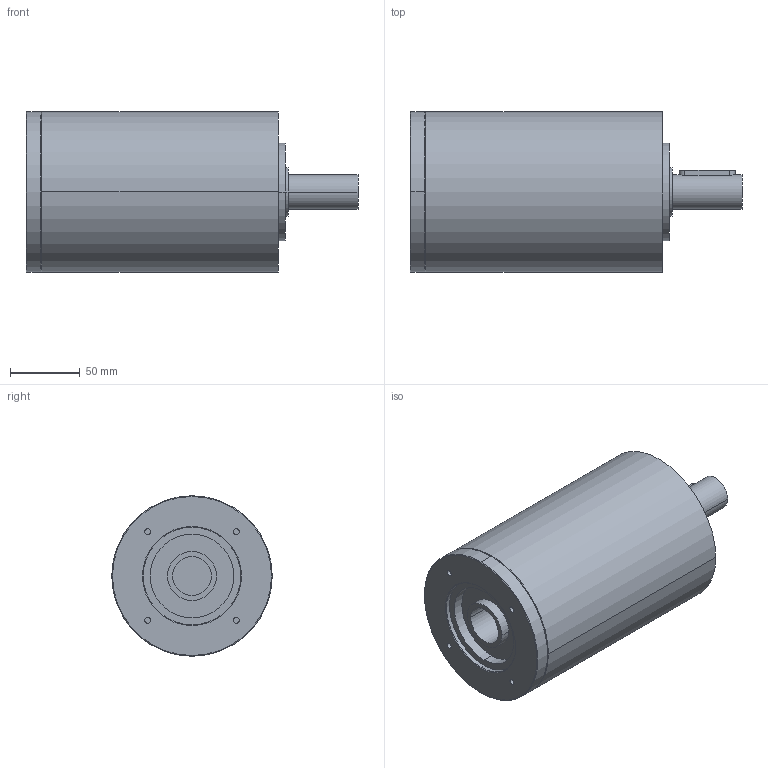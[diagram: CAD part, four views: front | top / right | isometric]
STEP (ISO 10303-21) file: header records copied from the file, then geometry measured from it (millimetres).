
FILE_DESCRIPTION(('CoCreate Modeling STEP Export'),'2;1');
FILE_NAME('GPR125_ig-9-12-16-20-28-35_25_B14_28_P15.stp','2014-08-26T14:11:43',(''),(''),'CoCreate Modeling STEP processor for AP214 (Solid Model)','CoCreate Modeling 16.00C 25-Feb-2009 (C) Parametric Technology GmbH','');
FILE_SCHEMA(('AUTOMOTIVE_DESIGN { 1 0 10303 214 1 1 1 1 }'));
Length unit declared in the file: millimetre
Products named in the file (2): GPR125_ig-9-12-16-20-28-35_25_B14_28_P15
Assembly tree (1 placements, depth 2):
  GPR125_ig-9-12-16-20-28-35_25_B14_28_P15
    GPR125_ig-9-12-16-20-28-35_25_B14_28_P15
Bounding box: 238 x 115 x 115 mm (x, y, z)
Volume: 1858379.2 mm3; surface area: 102849.3 mm2
Topology: 1 solids, 1 shells, 69 faces, 180 edges, 128 vertices
Faces by surface type: cylinder 38, plane 21, cone 10
Entity records: 1790 total; most frequent: ORIENTED_EDGE 356, CARTESIAN_POINT 336, DIRECTION 226, EDGE_CURVE 178, VERTEX_POINT 128, AXIS2_PLACEMENT_3D 86, EDGE_LOOP 86, FACE_OUTER_BOUND 69
